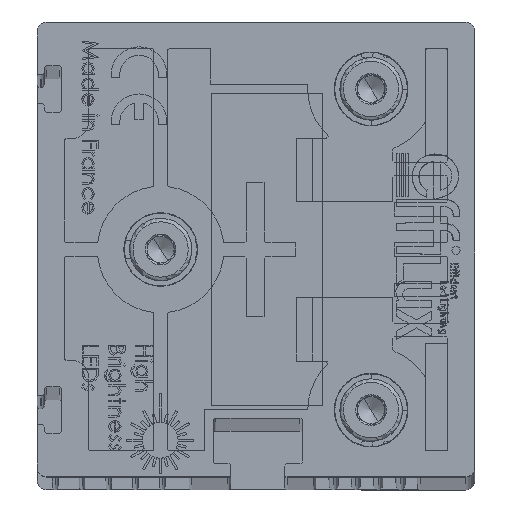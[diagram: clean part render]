
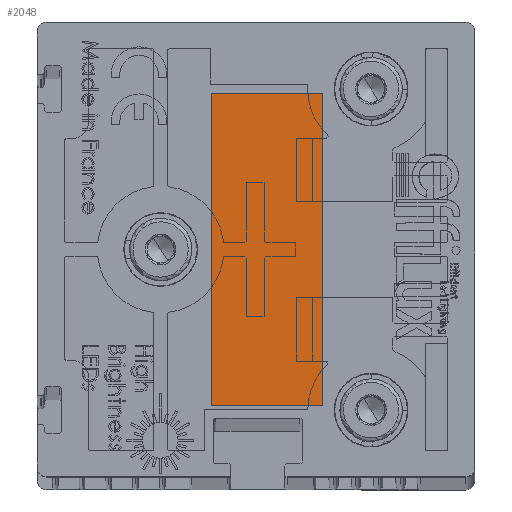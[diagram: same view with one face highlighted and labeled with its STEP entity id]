
A CAD part, top view. The second image highlights one B-rep face of the part: STEP entity #2048.
In plain terms, the highlighted planar face has unit normal (0, 0, 1) as drawn and (0, -1, 0) by its records, which use the part's own axes.
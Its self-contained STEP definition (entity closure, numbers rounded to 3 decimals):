
#828 = LINE ( 'NONE', #39380, #79520 ) ;
#2048 = ADVANCED_FACE ( 'NONE', ( #61051 ), #25642, .T. ) ;
#7475 = ORIENTED_EDGE ( 'NONE', *, *, #45531, .T. ) ;
#19382 = DIRECTION ( 'NONE',  ( 0., 0., 1. ) ) ;
#21062 = DIRECTION ( 'NONE',  ( 1., 0., 0. ) ) ;
#23169 = AXIS2_PLACEMENT_3D ( 'NONE', #36445, #77680, #36869 ) ;
#25642 = PLANE ( 'NONE',  #23169 ) ;
#26817 = VECTOR ( 'NONE', #21062, 1000. ) ;
#27904 = ORIENTED_EDGE ( 'NONE', *, *, #106821, .T. ) ;
#30813 = EDGE_LOOP ( 'NONE', ( #41220, #117786, #27904, #7475 ) ) ;
#30945 = CARTESIAN_POINT ( 'NONE',  ( 43., 0.1, -32. ) ) ;
#32897 = CARTESIAN_POINT ( 'NONE',  ( 8., 0.1, -19.5 ) ) ;
#36445 = CARTESIAN_POINT ( 'NONE',  ( 43., 0.1, -19.5 ) ) ;
#36869 = DIRECTION ( 'NONE',  ( 0., 0., -1. ) ) ;
#37654 = DIRECTION ( 'NONE',  ( -1., 0., 0. ) ) ;
#39380 = CARTESIAN_POINT ( 'NONE',  ( 8., 0.1, -32. ) ) ;
#41220 = ORIENTED_EDGE ( 'NONE', *, *, #79463, .T. ) ;
#41522 = VECTOR ( 'NONE', #37654, 1000. ) ;
#42186 = VERTEX_POINT ( 'NONE', #32897 ) ;
#45531 = EDGE_CURVE ( 'NONE', #105014, #120485, #81420, .T. ) ;
#47995 = CARTESIAN_POINT ( 'NONE',  ( 43., 0.1, -19.5 ) ) ;
#49791 = VERTEX_POINT ( 'NONE', #101423 ) ;
#58260 = CARTESIAN_POINT ( 'NONE',  ( 43., 0.1, -32. ) ) ;
#59169 = CARTESIAN_POINT ( 'NONE',  ( 8., 0.1, -32. ) ) ;
#61051 = FACE_OUTER_BOUND ( 'NONE', #30813, .T. ) ;
#62360 = VECTOR ( 'NONE', #19382, 1000. ) ;
#68742 = LINE ( 'NONE', #47995, #41522 ) ;
#77680 = DIRECTION ( 'NONE',  ( 0., -1., 0. ) ) ;
#79463 = EDGE_CURVE ( 'NONE', #120485, #49791, #89664, .T. ) ;
#79520 = VECTOR ( 'NONE', #110645, 1000. ) ;
#81420 = LINE ( 'NONE', #30945, #26817 ) ;
#89664 = LINE ( 'NONE', #110881, #62360 ) ;
#101423 = CARTESIAN_POINT ( 'NONE',  ( 43., 0.1, -19.5 ) ) ;
#105014 = VERTEX_POINT ( 'NONE', #59169 ) ;
#106821 = EDGE_CURVE ( 'NONE', #42186, #105014, #828, .T. ) ;
#110645 = DIRECTION ( 'NONE',  ( 0., 0., -1. ) ) ;
#110881 = CARTESIAN_POINT ( 'NONE',  ( 43., 0.1, -32. ) ) ;
#113495 = EDGE_CURVE ( 'NONE', #49791, #42186, #68742, .T. ) ;
#117786 = ORIENTED_EDGE ( 'NONE', *, *, #113495, .T. ) ;
#120485 = VERTEX_POINT ( 'NONE', #58260 ) ;
